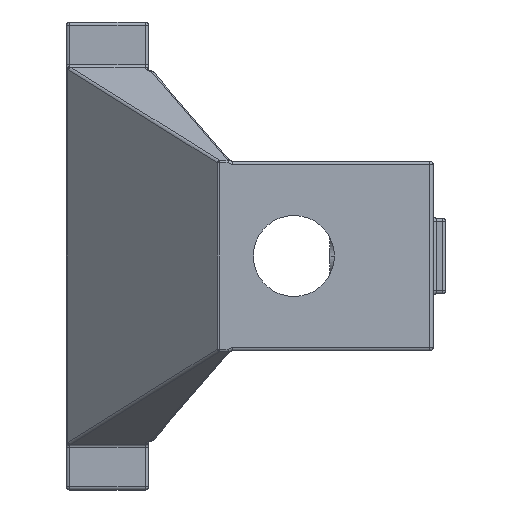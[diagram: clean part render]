
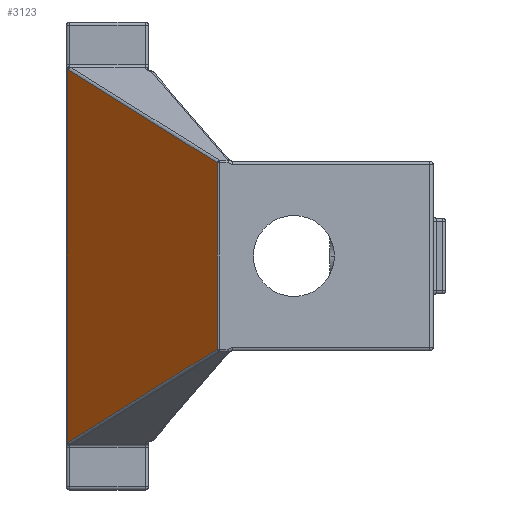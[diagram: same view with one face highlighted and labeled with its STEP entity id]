
A CAD part, left-side view. The second image highlights one B-rep face of the part: STEP entity #3123.
In plain terms, the highlighted planar face has unit normal (-0.715, 0.7, 0).
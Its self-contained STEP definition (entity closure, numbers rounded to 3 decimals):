
#38=ELLIPSE('',#3401,1.429,1.);
#39=ELLIPSE('',#3402,1.429,1.);
#137=PLANE('',#3400);
#198=LINE('',#4986,#371);
#200=LINE('',#4998,#373);
#201=LINE('',#5000,#374);
#202=LINE('',#5002,#375);
#371=VECTOR('',#3943,10.);
#373=VECTOR('',#3957,10.);
#374=VECTOR('',#3958,10.);
#375=VECTOR('',#3959,10.);
#638=FACE_OUTER_BOUND('',#851,.T.);
#851=EDGE_LOOP('',(#2110,#2111,#2112,#2113,#2114,#2115));
#1302=VERTEX_POINT('',#4978);
#1305=VERTEX_POINT('',#4985);
#1308=VERTEX_POINT('',#4995);
#1309=VERTEX_POINT('',#4997);
#1310=VERTEX_POINT('',#4999);
#1311=VERTEX_POINT('',#5001);
#1584=EDGE_CURVE('',#1302,#1305,#198,.T.);
#1589=EDGE_CURVE('',#1308,#1302,#38,.T.);
#1590=EDGE_CURVE('',#1309,#1308,#200,.T.);
#1591=EDGE_CURVE('',#1310,#1309,#201,.T.);
#1592=EDGE_CURVE('',#1311,#1310,#202,.T.);
#1593=EDGE_CURVE('',#1305,#1311,#39,.T.);
#2110=ORIENTED_EDGE('',*,*,#1584,.F.);
#2111=ORIENTED_EDGE('',*,*,#1589,.F.);
#2112=ORIENTED_EDGE('',*,*,#1590,.F.);
#2113=ORIENTED_EDGE('',*,*,#1591,.F.);
#2114=ORIENTED_EDGE('',*,*,#1592,.F.);
#2115=ORIENTED_EDGE('',*,*,#1593,.F.);
#3123=ADVANCED_FACE('',(#638),#137,.F.);
#3400=AXIS2_PLACEMENT_3D('',#4994,#3953,#3954);
#3401=AXIS2_PLACEMENT_3D('',#4996,#3955,#3956);
#3402=AXIS2_PLACEMENT_3D('',#5003,#3960,#3961);
#3943=DIRECTION('',(0.,0.,1.));
#3953=DIRECTION('center_axis',(0.715,-0.7,0.));
#3954=DIRECTION('ref_axis',(-0.7,-0.715,0.));
#3955=DIRECTION('center_axis',(-0.715,0.7,0.));
#3956=DIRECTION('ref_axis',(0.7,0.715,0.));
#3957=DIRECTION('',(0.639,0.652,-0.408));
#3958=DIRECTION('',(0.,0.,-1.));
#3959=DIRECTION('',(-0.639,-0.652,-0.408));
#3960=DIRECTION('center_axis',(-0.715,0.7,0.));
#3961=DIRECTION('ref_axis',(0.7,0.715,0.));
#4978=CARTESIAN_POINT('',(-12.147,35.85,-29.57));
#4985=CARTESIAN_POINT('',(-12.147,35.85,29.57));
#4986=CARTESIAN_POINT('',(-12.147,35.85,0.));
#4994=CARTESIAN_POINT('Origin',(-12.,36.,0.));
#4995=CARTESIAN_POINT('',(-12.319,35.674,-29.431));
#4996=CARTESIAN_POINT('Origin',(-12.857,35.125,-30.274));
#4997=CARTESIAN_POINT('',(-35.357,12.146,-14.726));
#4998=CARTESIAN_POINT('',(-15.812,32.107,-27.202));
#4999=CARTESIAN_POINT('',(-35.357,12.146,14.726));
#5000=CARTESIAN_POINT('',(-35.357,12.146,0.));
#5001=CARTESIAN_POINT('',(-12.319,35.674,29.431));
#5002=CARTESIAN_POINT('',(-22.561,25.214,22.894));
#5003=CARTESIAN_POINT('Origin',(-12.857,35.125,30.274));
